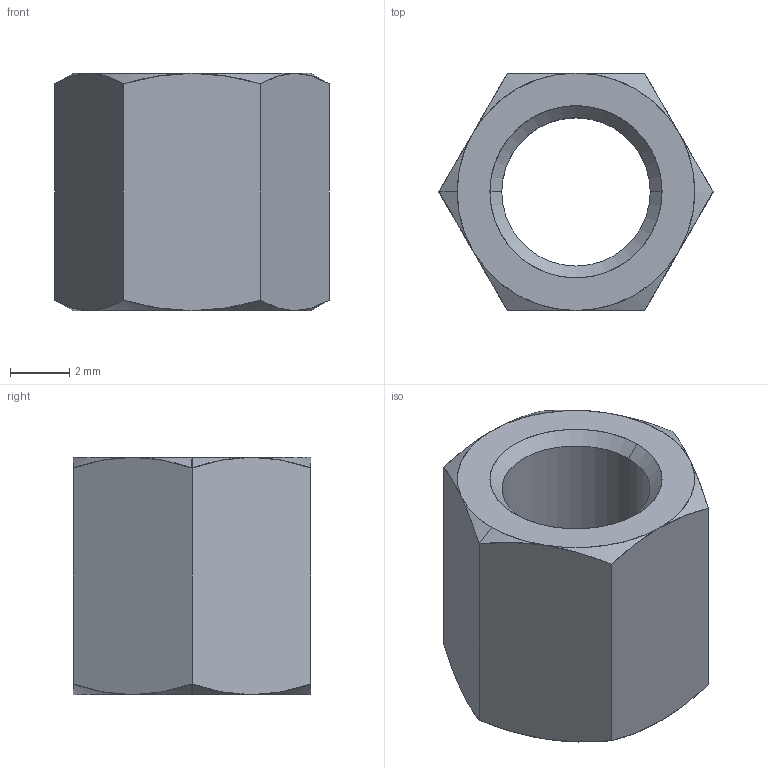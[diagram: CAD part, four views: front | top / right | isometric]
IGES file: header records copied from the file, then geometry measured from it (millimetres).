
Start section: SolidWorks IGES file using analytic representation for surfaces
Global section: file name: C:\Users\ianosborn\Desktop\N0503.NP_v2\N0503.NP_v2_20250227_IGES\N0503.050-008-NP.igs; native system: SolidWorks 2019; preprocessor: SolidWorks 2019; author: IanOsborn; date: 250227.144346; units: millimetre
Bounding box: 9.24 x 8 x 8 mm (x, y, z)
Surface area: 406.8 mm2 (no closed solid volume)
Topology: 0 solids, 0 shells, 28 faces, 286 edges, 286 vertices
Faces by surface type: revolution 20, bspline 8
